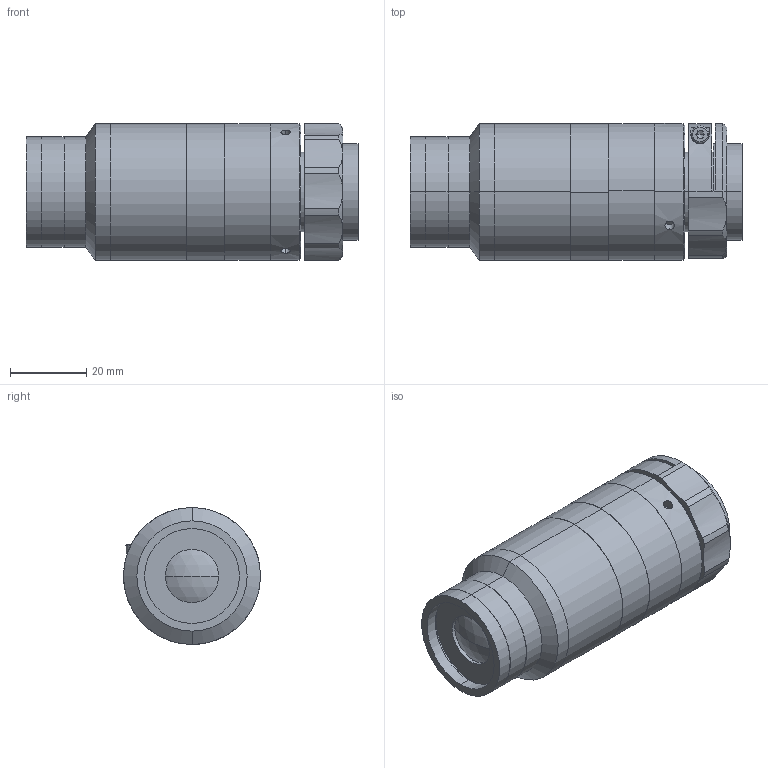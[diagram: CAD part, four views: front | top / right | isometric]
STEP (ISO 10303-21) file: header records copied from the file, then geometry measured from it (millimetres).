
FILE_DESCRIPTION (( 'STEP AP203' ), '1' );
FILE_NAME ('XF-MH08X93.STEP', '2020-08-24T07:08:24', ( 'canrill-02' ), ( '' ), 'SwSTEP 2.0', 'SolidWorks 2014', '' );
FILE_SCHEMA (( 'CONFIG_CONTROL_DESIGN' ));
Length unit declared in the file: millimetre
Products named in the file (1): XF-MH08X93
Bounding box: 87.24 x 36 x 36 mm (x, y, z)
Surface area: 16232.8 mm2 (no closed solid volume)
Topology: 0 solids, 13 shells, 109 faces, 284 edges, 194 vertices
Faces by surface type: cylinder 51, plane 39, cone 15, sphere 2, torus 2
Entity records: 3740 total; most frequent: CARTESIAN_POINT 907, DIRECTION 635, ORIENTED_EDGE 486, EDGE_CURVE 282, AXIS2_PLACEMENT_3D 266, VERTEX_POINT 194, CIRCLE 156, EDGE_LOOP 137
